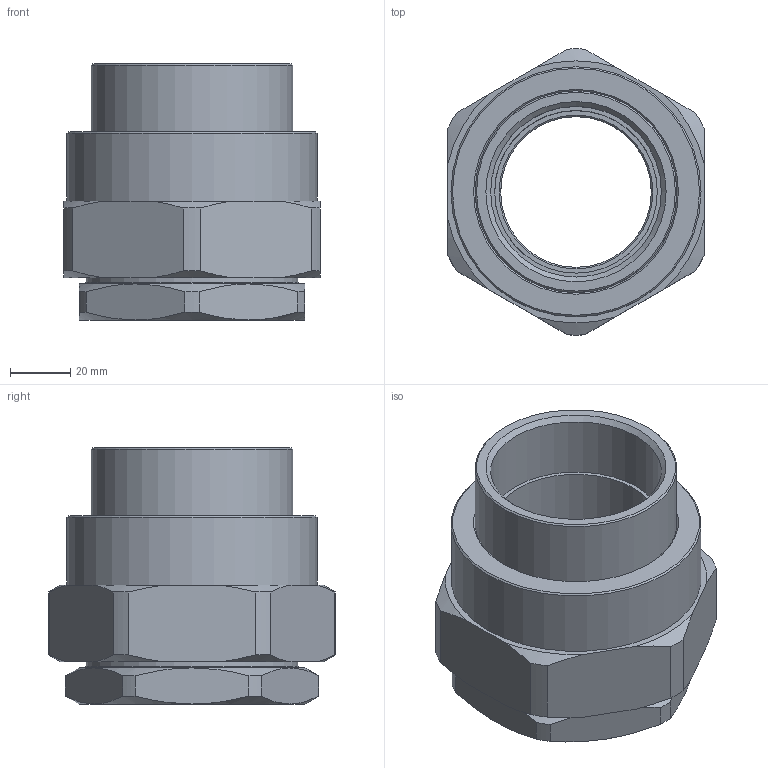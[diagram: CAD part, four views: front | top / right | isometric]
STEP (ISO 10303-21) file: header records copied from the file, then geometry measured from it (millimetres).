
FILE_DESCRIPTION((''),'2;1');
FILE_NAME('D:\WORKS\Чертежи\ТЗ\04.24\104096\ТСВВA6GНK.stp','2024-04-22T14:51:07',('t.v.ogurnaya'),(''),'Autodesk Inventor 2012','Autodesk Inventor 2012','');
FILE_SCHEMA(('AUTOMOTIVE_DESIGN { 1 0 10303 214 1 1 1 1 }'));
Length unit declared in the file: millimetre
Products named in the file (1): TCBВA (параметрика)_Внешний контур_1
Bounding box: 85 x 94.98 x 85 mm (x, y, z)
Volume: 225297.3 mm3; surface area: 72859.1 mm2
Topology: 4 solids, 4 shells, 102 faces, 243 edges, 154 vertices
Faces by surface type: plane 37, cone 34, cylinder 30, torus 1
Full cylindrical faces by diameter (mm): 50 x1, 54 x2, 56.656 x2, 67 x2, 70 x1, 70.3 x1, 70.376 x1, 72 x1, 83 x1
Entity records: 2895 total; most frequent: CARTESIAN_POINT 559, DIRECTION 470, ORIENTED_EDGE 426, EDGE_CURVE 213, AXIS2_PLACEMENT_3D 202, VERTEX_POINT 147, EDGE_LOOP 138, STYLED_ITEM 106
